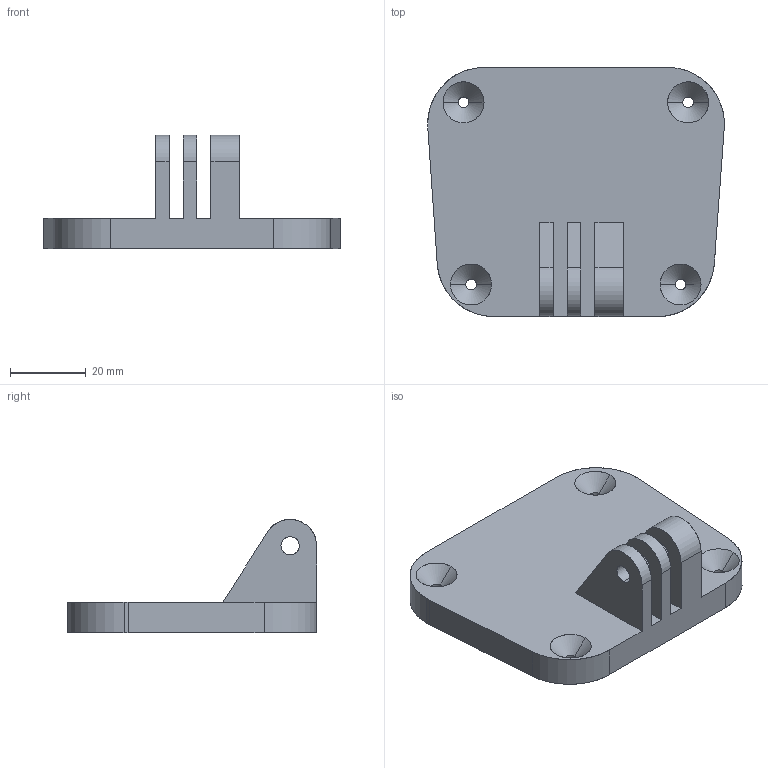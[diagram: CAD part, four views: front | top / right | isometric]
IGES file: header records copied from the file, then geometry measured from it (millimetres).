
Start section: SolidWorks IGES file using analytic representation for surfaces
Global section: file name: C:\Users\Atakan\Documents\tridi\Bantaþ kamera\step-iges\arka kapak.IGS; native system: SolidWorks 2015; preprocessor: SolidWorks 2015; author: Atakan; date: 161103.171251; units: millimetre
Bounding box: 78.59 x 66 x 30 mm (x, y, z)
Surface area: 16564.8 mm2 (no closed solid volume)
Topology: 0 solids, 0 shells, 94 faces, 1470 edges, 1470 vertices
Faces by surface type: revolution 53, bspline 41
